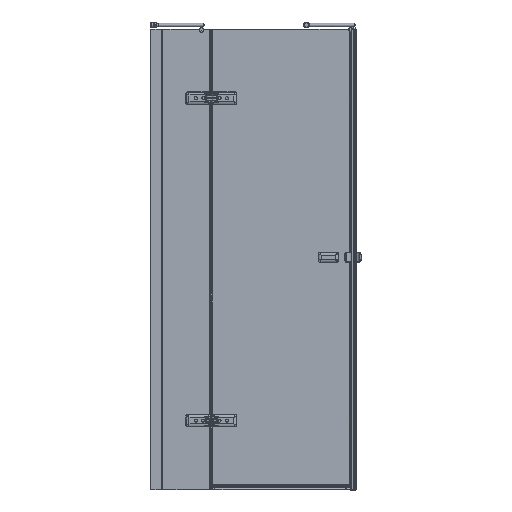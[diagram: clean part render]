
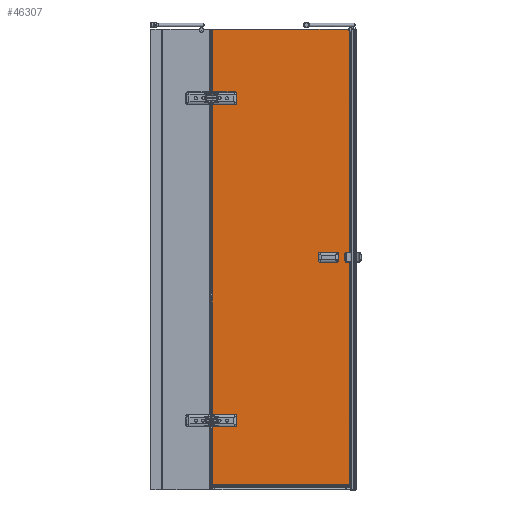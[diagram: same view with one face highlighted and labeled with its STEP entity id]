
A CAD part, left-side view. The second image highlights one B-rep face of the part: STEP entity #46307.
In plain terms, the highlighted planar face has unit normal (-1, 0, 0).
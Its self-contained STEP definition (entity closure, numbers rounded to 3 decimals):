
#1850=LINE($,#98675,#5903);
#1855=LINE($,#98735,#5908);
#2336=LINE($,#101055,#6389);
#3405=LINE($,#106346,#7458);
#4126=LINE($,#108103,#8179);
#4137=LINE($,#108151,#8190);
#4139=LINE($,#108155,#8192);
#4140=LINE($,#108159,#8193);
#4141=LINE($,#108162,#8194);
#4142=LINE($,#108163,#8195);
#4143=LINE($,#108165,#8196);
#4144=LINE($,#108169,#8197);
#5903=VECTOR($,#55093,1362.);
#5908=VECTOR($,#55108,256.4);
#6389=VECTOR($,#56475,281.);
#7458=VECTOR($,#59516,598.249);
#8179=VECTOR($,#61165,30.249);
#8190=VECTOR($,#61210,30.249);
#8192=VECTOR($,#61214,30.249);
#8193=VECTOR($,#61217,18.);
#8194=VECTOR($,#61220,598.249);
#8195=VECTOR($,#61221,1975.4);
#8196=VECTOR($,#61222,30.249);
#8197=VECTOR($,#61225,18.);
#10167=FACE_BOUND($,#14974,.T.);
#10168=FACE_BOUND($,#14975,.T.);
#10169=FACE_BOUND($,#14976,.T.);
#14974=EDGE_LOOP($,(#38158));
#14975=EDGE_LOOP($,(#38159));
#14976=EDGE_LOOP($,(#38160,#38161,#38162,#38163,#38164,#38165,#38166,#38167,
#38168,#38169,#38170,#38171,#38172,#38173,#38174,#38175));
#16101=CIRCLE($,#48091,6.5);
#16276=CIRCLE($,#48544,6.5);
#16843=CIRCLE($,#50207,10.);
#16844=CIRCLE($,#50208,10.);
#16845=CIRCLE($,#50209,10.);
#16846=CIRCLE($,#50210,10.);
#18441=VERTEX_POINT($,#97717);
#18629=VERTEX_POINT($,#98673);
#18630=VERTEX_POINT($,#98674);
#18643=VERTEX_POINT($,#98723);
#18644=VERTEX_POINT($,#98734);
#18946=VERTEX_POINT($,#100136);
#19118=VERTEX_POINT($,#101052);
#19119=VERTEX_POINT($,#101054);
#20216=VERTEX_POINT($,#106345);
#20676=VERTEX_POINT($,#108102);
#20684=VERTEX_POINT($,#108150);
#20685=VERTEX_POINT($,#108154);
#20686=VERTEX_POINT($,#108156);
#20687=VERTEX_POINT($,#108158);
#20688=VERTEX_POINT($,#108161);
#20689=VERTEX_POINT($,#108164);
#20690=VERTEX_POINT($,#108166);
#20691=VERTEX_POINT($,#108168);
#23160=EDGE_CURVE($,#18441,#18441,#16101,.T.);
#23461=EDGE_CURVE($,#18629,#18630,#1850,.T.);
#23475=EDGE_CURVE($,#18644,#18643,#1855,.T.);
#23936=EDGE_CURVE($,#18946,#18946,#16276,.T.);
#24215=EDGE_CURVE($,#19119,#19118,#2336,.T.);
#25882=EDGE_CURVE($,#19119,#20216,#3405,.T.);
#26708=EDGE_CURVE($,#20676,#18629,#4126,.T.);
#26724=EDGE_CURVE($,#20684,#18644,#4137,.T.);
#26726=EDGE_CURVE($,#18630,#20685,#4139,.T.);
#26727=EDGE_CURVE($,#20686,#20685,#16843,.T.);
#26728=EDGE_CURVE($,#20686,#20687,#4140,.T.);
#26729=EDGE_CURVE($,#20684,#20687,#16844,.T.);
#26730=EDGE_CURVE($,#20688,#18643,#4141,.T.);
#26731=EDGE_CURVE($,#20688,#20216,#4142,.T.);
#26732=EDGE_CURVE($,#19118,#20689,#4143,.T.);
#26733=EDGE_CURVE($,#20690,#20689,#16845,.T.);
#26734=EDGE_CURVE($,#20690,#20691,#4144,.T.);
#26735=EDGE_CURVE($,#20676,#20691,#16846,.T.);
#38158=ORIENTED_EDGE($,*,*,#23160,.T.);
#38159=ORIENTED_EDGE($,*,*,#23936,.T.);
#38160=ORIENTED_EDGE($,*,*,#23461,.T.);
#38161=ORIENTED_EDGE($,*,*,#26726,.T.);
#38162=ORIENTED_EDGE($,*,*,#26727,.F.);
#38163=ORIENTED_EDGE($,*,*,#26728,.T.);
#38164=ORIENTED_EDGE($,*,*,#26729,.F.);
#38165=ORIENTED_EDGE($,*,*,#26724,.T.);
#38166=ORIENTED_EDGE($,*,*,#23475,.T.);
#38167=ORIENTED_EDGE($,*,*,#26730,.F.);
#38168=ORIENTED_EDGE($,*,*,#26731,.T.);
#38169=ORIENTED_EDGE($,*,*,#25882,.F.);
#38170=ORIENTED_EDGE($,*,*,#24215,.T.);
#38171=ORIENTED_EDGE($,*,*,#26732,.T.);
#38172=ORIENTED_EDGE($,*,*,#26733,.F.);
#38173=ORIENTED_EDGE($,*,*,#26734,.T.);
#38174=ORIENTED_EDGE($,*,*,#26735,.F.);
#38175=ORIENTED_EDGE($,*,*,#26708,.T.);
#41710=PLANE($,#50206);
#46307=ADVANCED_FACE($,(#10167,#10168,#10169),#41710,.T.);
#48091=AXIS2_PLACEMENT_3D($,#97718,#54505,#54506);
#48544=AXIS2_PLACEMENT_3D($,#100137,#55915,#55916);
#50206=AXIS2_PLACEMENT_3D($,#108153,#61212,#61213);
#50207=AXIS2_PLACEMENT_3D($,#108157,#61215,#61216);
#50208=AXIS2_PLACEMENT_3D($,#108160,#61218,#61219);
#50209=AXIS2_PLACEMENT_3D($,#108167,#61223,#61224);
#50210=AXIS2_PLACEMENT_3D($,#108170,#61226,#61227);
#54505=DIRECTION('center_axis',(1.,0.,0.));
#54506=DIRECTION('ref_axis',(0.,1.,0.));
#55093=DIRECTION($,(0.,0.,-1.));
#55108=DIRECTION($,(0.,0.,-1.));
#55915=DIRECTION('center_axis',(1.,0.,0.));
#55916=DIRECTION('ref_axis',(0.,1.,0.));
#56475=DIRECTION($,(0.,0.,-1.));
#59516=DIRECTION($,(0.,-1.,0.));
#61165=DIRECTION($,(0.,1.,0.));
#61210=DIRECTION($,(0.,1.,0.));
#61212=DIRECTION('center_axis',(-1.,0.,0.));
#61213=DIRECTION('ref_axis',(0.,-1.,0.));
#61214=DIRECTION($,(0.,-1.,0.));
#61215=DIRECTION('center_axis',(-1.,0.,0.));
#61216=DIRECTION('ref_axis',(0.,-0.707,0.707));
#61217=DIRECTION($,(0.,0.,-1.));
#61218=DIRECTION('center_axis',(-1.,0.,0.));
#61219=DIRECTION('ref_axis',(0.,-0.707,-0.707));
#61220=DIRECTION($,(0.,1.,0.));
#61221=DIRECTION($,(0.,0.,1.));
#61222=DIRECTION($,(0.,-1.,0.));
#61223=DIRECTION('center_axis',(-1.,0.,0.));
#61224=DIRECTION('ref_axis',(0.,-0.707,0.707));
#61225=DIRECTION($,(0.,0.,-1.));
#61226=DIRECTION('center_axis',(-1.,0.,0.));
#61227=DIRECTION('ref_axis',(0.,-0.707,-0.707));
#97717=CARTESIAN_POINT('',(1240.019,509.456,-214.056));
#97718=CARTESIAN_POINT('Origin',(1240.019,515.956,-214.056));
#98673=CARTESIAN_POINT('',(1240.019,579.205,1166.944));
#98674=CARTESIAN_POINT('',(1240.019,579.205,-195.056));
#98675=CARTESIAN_POINT($,(1240.019,579.205,-204.056));
#98723=CARTESIAN_POINT('',(1240.019,579.205,-489.456));
#98734=CARTESIAN_POINT('',(1240.019,579.205,-233.056));
#98735=CARTESIAN_POINT($,(1240.019,579.205,-514.056));
#100136=CARTESIAN_POINT('',(1240.019,509.456,1185.944));
#100137=CARTESIAN_POINT('Origin',(1240.019,515.956,1185.944));
#101052=CARTESIAN_POINT('',(1240.019,579.205,1204.944));
#101054=CARTESIAN_POINT('',(1240.019,579.205,1485.944));
#101055=CARTESIAN_POINT($,(1240.019,579.205,1485.944));
#106345=CARTESIAN_POINT('',(1240.019,-19.044,1485.944));
#106346=CARTESIAN_POINT($,(1240.019,580.956,1485.944));
#108102=CARTESIAN_POINT('',(1240.019,548.956,1166.944));
#108103=CARTESIAN_POINT($,(1240.019,559.956,1166.944));
#108150=CARTESIAN_POINT('',(1240.019,548.956,-233.056));
#108151=CARTESIAN_POINT($,(1240.019,559.956,-233.056));
#108153=CARTESIAN_POINT('Origin',(1240.019,580.956,-494.056));
#108154=CARTESIAN_POINT('',(1240.019,548.956,-195.056));
#108155=CARTESIAN_POINT($,(1240.019,580.956,-195.056));
#108156=CARTESIAN_POINT('',(1240.019,538.956,-205.056));
#108157=CARTESIAN_POINT('Origin',(1240.019,548.956,-205.056));
#108158=CARTESIAN_POINT('',(1240.019,538.956,-223.056));
#108159=CARTESIAN_POINT($,(1240.019,538.956,-344.556));
#108160=CARTESIAN_POINT('Origin',(1240.019,548.956,-223.056));
#108161=CARTESIAN_POINT('',(1240.019,-19.044,-489.456));
#108162=CARTESIAN_POINT($,(1240.019,-29.044,-489.456));
#108163=CARTESIAN_POINT($,(1240.019,-19.044,-494.056));
#108164=CARTESIAN_POINT('',(1240.019,548.956,1204.944));
#108165=CARTESIAN_POINT($,(1240.019,580.956,1204.944));
#108166=CARTESIAN_POINT('',(1240.019,538.956,1194.944));
#108167=CARTESIAN_POINT('Origin',(1240.019,548.956,1194.944));
#108168=CARTESIAN_POINT('',(1240.019,538.956,1176.944));
#108169=CARTESIAN_POINT($,(1240.019,538.956,355.444));
#108170=CARTESIAN_POINT('Origin',(1240.019,548.956,1176.944));
